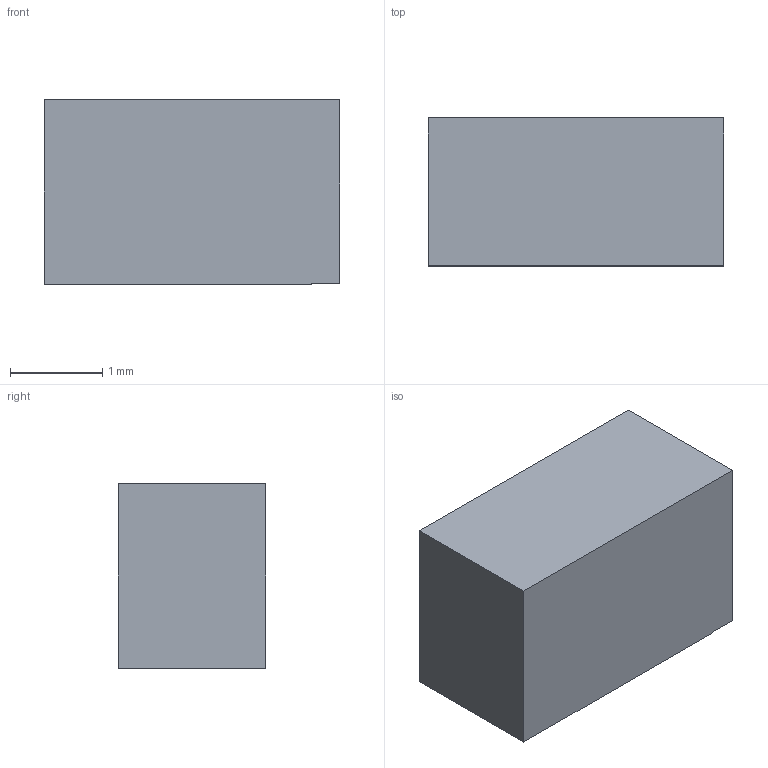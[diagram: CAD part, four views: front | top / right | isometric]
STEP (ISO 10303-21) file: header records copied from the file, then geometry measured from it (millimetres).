
FILE_DESCRIPTION(/* description */ ('STEP AP242 Edition 2','CAx-IF Rec.Pracs.---Representation and Presentation of Product Manufacturing Information (PMI)---4.0---2014-10-13','CAx-IF Rec.Pracs.---3D Tessellated Geometry---0.4---2014-09-14','2;1','CAx-IF Rec.Pracs.---User Defined Attributes---1.5---2016-08-15'),/* implementation_level */ '2;1');
FILE_NAME(/* name */ 'Drone Layout - Surface 274',/* time_stamp */ '2026-10-04T22:22:54Z',/* author */ (''),/* organization */ (''),/* preprocessor_version */ 'ST-DEVELOPER v20',/* originating_system */ 'ONSHAPE BY PTC INC, 1.221',/* authorisation */ ' ');
FILE_SCHEMA (('AP242_MANAGED_MODEL_BASED_3D_ENGINEERING_MIM_LF { 1 0 10303 442 3 1 4 }'));
Length unit declared in the file: metre
Products named in the file (1): Corps002
Bounding box: 3.2 x 1.6 x 2 mm (x, y, z)
Volume: 10.2 mm3; surface area: 29.4 mm2
Topology: 1 solids, 1 shells, 8 faces, 18 edges, 12 vertices
Faces by surface type: plane 8
Entity records: 244 total; most frequent: CARTESIAN_POINT 39, ORIENTED_EDGE 36, DIRECTION 36, EDGE_CURVE 18, LINE 18, VECTOR 18, VERTEX_POINT 12, AXIS2_PLACEMENT_3D 9
